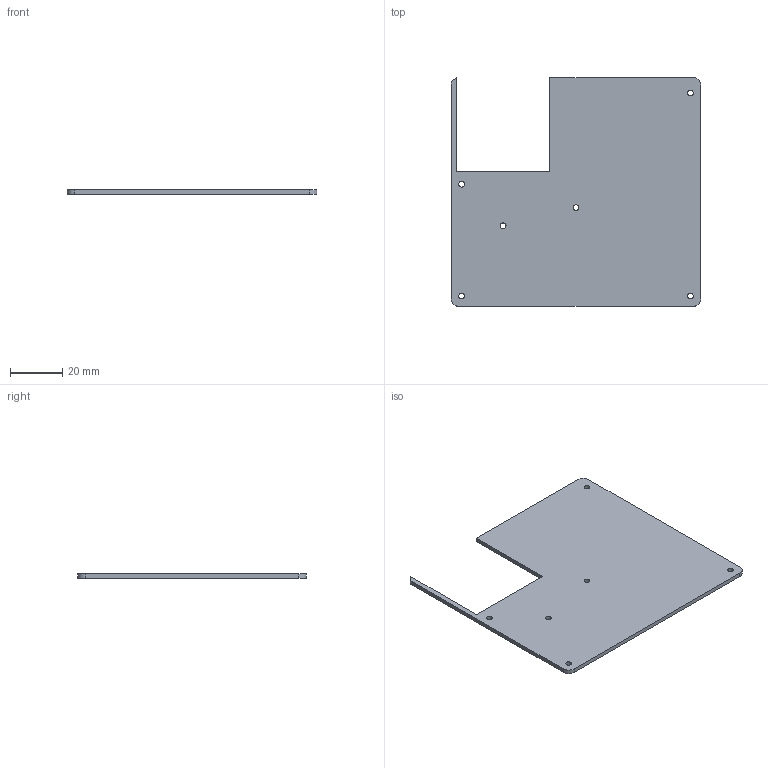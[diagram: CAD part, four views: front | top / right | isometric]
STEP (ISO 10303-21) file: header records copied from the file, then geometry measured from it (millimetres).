
FILE_DESCRIPTION(('FreeCAD Model'),'2;1');
FILE_NAME('Open CASCADE Shape Model','2026-10-20T15:22:03',('FreeCAD'),( 'FreeCAD'),'Open CASCADE STEP processor 7.8','FreeCAD','Unknown');
FILE_SCHEMA(('AUTOMOTIVE_DESIGN { 1 0 10303 214 1 1 1 1 }'));
Length unit declared in the file: millimetre
Products named in the file (1): Open CASCADE STEP translator 7.8 1
Bounding box: 96 x 88 x 1.6 mm (x, y, z)
Volume: 11394.4 mm3; surface area: 15004.8 mm2
Topology: 1 solids, 1 shells, 19 faces, 51 edges, 34 vertices
Faces by surface type: cylinder 10, plane 9
Full cylindrical faces by diameter (mm): 2.2 x6
Entity records: 639 total; most frequent: DIRECTION 111, CARTESIAN_POINT 105, ORIENTED_EDGE 102, EDGE_CURVE 51, AXIS2_PLACEMENT_3D 40, VERTEX_POINT 34, FACE_BOUND 31, EDGE_LOOP 31
